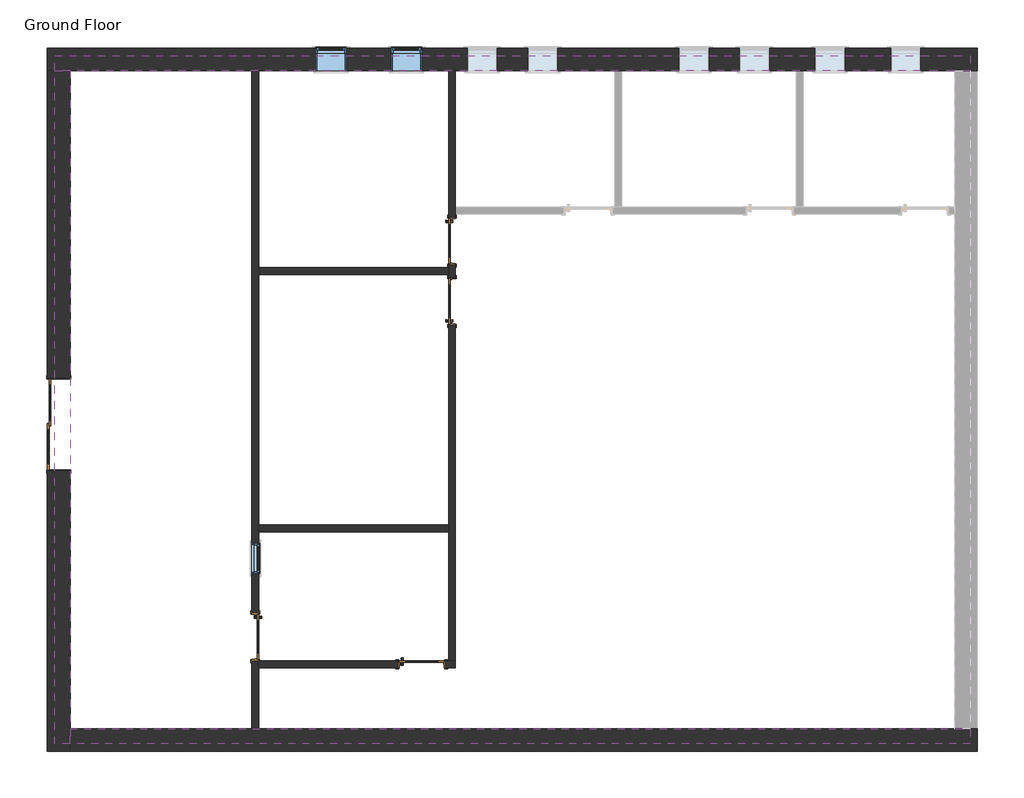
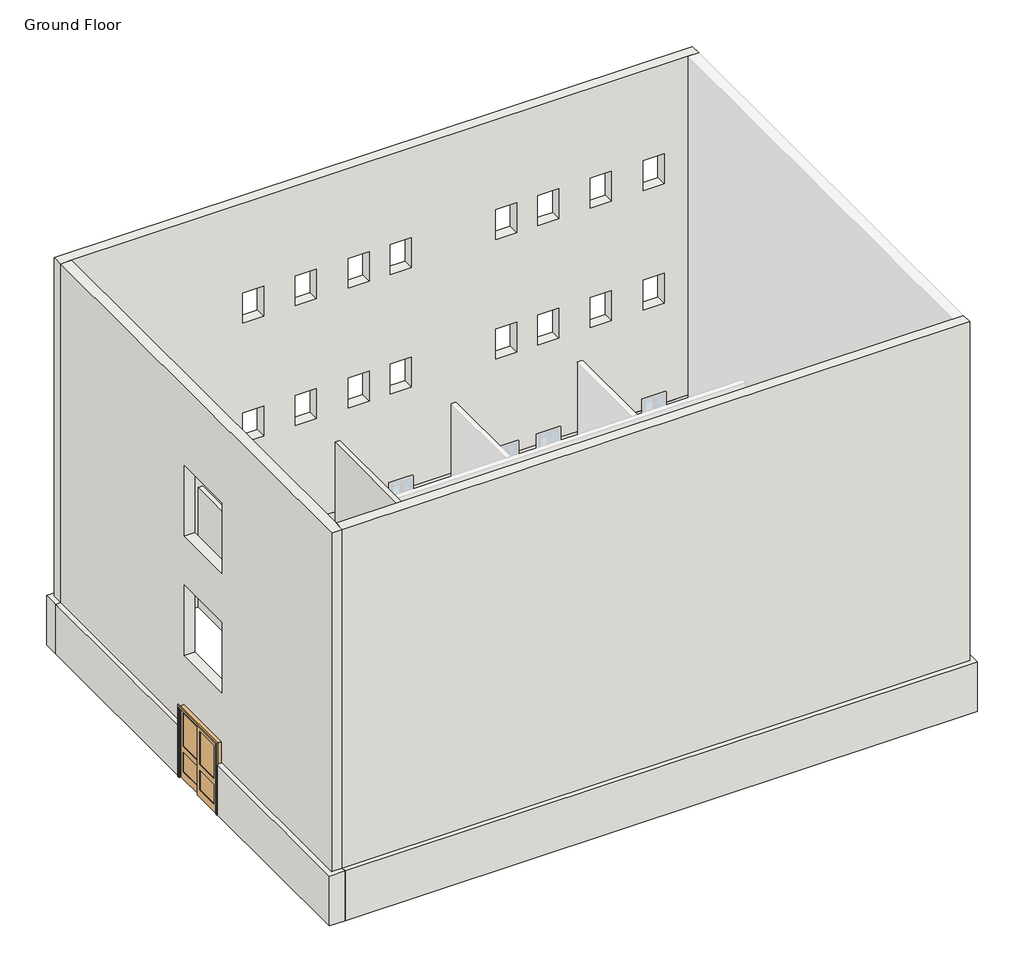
# One storey, part 1 of 2: 11 walls, 5 doors, 3 windows.
"""IFC4 building model written with IfcOpenShell, lengths in millimetres."""

from ifc_helpers import new_model, si_unit, origin, origin_with_axes, place, context, project, spatial, polyline, outline, extrude, faceted_brep, transform, mapped, element, save
from components import door_5c496fa4, door_918c180d, door_79dd3e86, window_d7bc73cd, window_2d4a29d0

model = new_model("IFC4")

# Units and contexts
model_context = context("Model", 3, world=origin())
ifc_project = project(units=[si_unit("LENGTHUNIT", "METRE", prefix="MILLI")], contexts=[model_context])

# Site, building, storey
site = spatial("IfcSite", under=ifc_project)
building = spatial("IfcBuilding", under=site)
storey = spatial("IfcBuildingStorey", under=building, Name="Ground Floor", Elevation=0.0)

# Doors
placement = place(None, origin())
door_shape = door_5c496fa4(model_context)
element("IfcDoor", 1, ObjectType="Door-Interior-Double-Sliding-2_Panel-Wood : 72\" x 84\"", at=placement, inside=storey, context=model_context, shape_type="MappedRepresentation", body=[
    mapped(door_shape, transform((-18194.5597136, 4559.7577587, 0.0), x_axis=(0.0, 1.0, 0.0), y_axis=(-1.0, 0.0, 0.0), z_axis=(0.0, 0.0, 1.0))),
])
door_2_shape = door_918c180d(model_context)
element("IfcDoor", 2, ObjectType="Door-Interior-Single-Full Glass-Wood : 36\" x 84\"", at=placement, inside=storey, context=model_context, shape_type="MappedRepresentation", body=[
    mapped(door_2_shape, transform((-14225.8097136, 277.7205992, 0.0), x_axis=(0.0, -1.0, 0.0), y_axis=(1.0, 0.0, 0.0), z_axis=(0.0, 0.0, 1.0))),
])
element("IfcDoor", 3, ObjectType="Door-Interior-Single-Full Glass-Wood : 36\" x 84\"", at=placement, inside=storey, context=model_context, shape_type="MappedRepresentation", body=[
    mapped(door_2_shape, transform((-10269.7597136, 7040.4705992, 0.0), x_axis=(0.0, 1.0, 0.0), y_axis=(-1.0, 0.0, 0.0), z_axis=(0.0, 0.0, 1.0))),
])
element("IfcDoor", 4, ObjectType="Door-Interior-Single-Full Glass-Wood : 36\" x 84\"", at=placement, inside=storey, context=model_context, shape_type="MappedRepresentation", body=[
    mapped(door_2_shape, transform((-10876.1847136, -271.5544008, 0.0), x_axis=(1.0, 0.0, 0.0), y_axis=(0.0, 1.0, 0.0), z_axis=(0.0, 0.0, 1.0))),
])
door_3_shape = door_79dd3e86(model_context)
element("IfcDoor", 5, ObjectType="Door-Interior-Single-Full Glass-Wood : 36\" x 84\"", at=placement, inside=storey, context=model_context, shape_type="MappedRepresentation", body=[
    mapped(door_3_shape, transform((-10269.7597136, 8259.6705992, 0.0), x_axis=(0.0, -1.0, 0.0), y_axis=(1.0, 0.0, 0.0), z_axis=(0.0, 0.0, 1.0))),
])

# Walls
element("IfcWall", 6, ObjectType="Exterior - CMU on Mtl. Stud", at=placement, inside=storey, context=model_context, shape_type="Brep", body=[
    faceted_brep([(-18418.3972136, 11690.2580992, 0.0), (-17964.3722136, 11690.2580992, 0.0), (-14298.8347136, 11690.2580992, 0.0), (-14159.1347136, 11690.2580992, 0.0), (-10336.4347136, 11690.2580992, 0.0), (-10196.7347136, 11690.2580992, 0.0), (-6983.6347136, 11690.2580992, 0.0), (-6843.9347136, 11690.2580992, 0.0), (-3326.0347136, 11690.2580992, 0.0), (-3186.3347136, 11690.2580992, 0.0), (-130.3972136, 11690.2580992, 0.0), (323.6277864, 11690.2580992, 0.0), (323.6277864, 11690.2580992, 1524.0), (180.7527864, 11690.2580992, 1524.0), (-130.3972136, 11690.2580992, 1524.0), (-817.7847136, 11690.2580992, 1524.0), (-817.7847136, 11690.2580992, 914.4), (-1427.3847136, 11690.2580992, 914.4), (-1427.3847136, 11690.2580992, 1524.0), (-2341.7847136, 11690.2580992, 1524.0), (-2341.7847136, 11690.2580992, 914.4), (-2951.3847136, 11690.2580992, 914.4), (-2951.3847136, 11690.2580992, 1524.0), (-3865.7847136, 11690.2580992, 1524.0), (-3865.7847136, 11690.2580992, 914.4), (-4475.3847136, 11690.2580992, 914.4), (-4475.3847136, 11690.2580992, 1524.0), (-5084.9847136, 11690.2580992, 1524.0), (-5084.9847136, 11690.2580992, 914.4), (-5694.5847136, 11690.2580992, 914.4), (-5694.5847136, 11690.2580992, 1524.0), (-8132.9847136, 11690.2580992, 1524.0), (-8132.9847136, 11690.2580992, 914.4), (-8742.5847136, 11690.2580992, 914.4), (-8742.5847136, 11690.2580992, 1524.0), (-9352.1847136, 11690.2580992, 1524.0), (-9352.1847136, 11690.2580992, 914.4), (-9961.7847136, 11690.2580992, 914.4), (-9961.7847136, 11690.2580992, 1524.0), (-10876.1847136, 11690.2580992, 1524.0), (-10876.1847136, 11690.2580992, 914.4), (-11485.7847136, 11690.2580992, 914.4), (-11485.7847136, 11690.2580992, 1524.0), (-12400.1847136, 11690.2580992, 1524.0), (-12400.1847136, 11690.2580992, 914.4), (-13009.7847136, 11690.2580992, 914.4), (-13009.7847136, 11690.2580992, 1524.0), (-17964.3722136, 11690.2580992, 1524.0), (-18275.5222136, 11690.2580992, 1524.0), (-18418.3972136, 11690.2580992, 1524.0), (323.6277864, 12144.2830992, 0.0), (-18418.3972136, 12144.2830992, 0.0), (-18418.3972136, 12144.2830992, 1524.0), (-13009.7847136, 12144.2830992, 1524.0), (-13009.7847136, 12144.2830992, 914.4), (-12400.1847136, 12144.2830992, 914.4), (-12400.1847136, 12144.2830992, 1524.0), (-11485.7847136, 12144.2830992, 1524.0), (-11485.7847136, 12144.2830992, 914.4), (-10876.1847136, 12144.2830992, 914.4), (-10876.1847136, 12144.2830992, 1524.0), (-9961.7847136, 12144.2830992, 1524.0), (-9961.7847136, 12144.2830992, 914.4), (-9352.1847136, 12144.2830992, 914.4), (-9352.1847136, 12144.2830992, 1524.0), (-8742.5847136, 12144.2830992, 1524.0), (-8742.5847136, 12144.2830992, 914.4), (-8132.9847136, 12144.2830992, 914.4), (-8132.9847136, 12144.2830992, 1524.0), (-5694.5847136, 12144.2830992, 1524.0), (-5694.5847136, 12144.2830992, 914.4), (-5084.9847136, 12144.2830992, 914.4), (-5084.9847136, 12144.2830992, 1524.0), (-4475.3847136, 12144.2830992, 1524.0), (-4475.3847136, 12144.2830992, 914.4), (-3865.7847136, 12144.2830992, 914.4), (-3865.7847136, 12144.2830992, 1524.0), (-2951.3847136, 12144.2830992, 1524.0), (-2951.3847136, 12144.2830992, 914.4), (-2341.7847136, 12144.2830992, 914.4), (-2341.7847136, 12144.2830992, 1524.0), (-1427.3847136, 12144.2830992, 1524.0), (-1427.3847136, 12144.2830992, 914.4), (-817.7847136, 12144.2830992, 914.4), (-817.7847136, 12144.2830992, 1524.0), (323.6277864, 12144.2830992, 1524.0), (-13009.7847136, 12001.4080992, 1524.0), (-817.7847136, 12001.4080992, 1524.0), (-1427.3847136, 12001.4080992, 1524.0), (-2341.7847136, 12001.4080992, 1524.0), (-2951.3847136, 12001.4080992, 1524.0), (-3865.7847136, 12001.4080992, 1524.0), (-4475.3847136, 12001.4080992, 1524.0), (-5084.9847136, 12001.4080992, 1524.0), (-5694.5847136, 12001.4080992, 1524.0), (-8132.9847136, 12001.4080992, 1524.0), (-8742.5847136, 12001.4080992, 1524.0), (-9352.1847136, 12001.4080992, 1524.0), (-9961.7847136, 12001.4080992, 1524.0), (-10876.1847136, 12001.4080992, 1524.0), (-11485.7847136, 12001.4080992, 1524.0), (-12400.1847136, 12001.4080992, 1524.0)], [[[0, 1, 2, 3, 4, 5, 6, 7, 8, 9, 10, 11, 12, 13, 14, 15, 16, 17, 18, 19, 20, 21, 22, 23, 24, 25, 26, 27, 28, 29, 30, 31, 32, 33, 34, 35, 36, 37, 38, 39, 40, 41, 42, 43, 44, 45, 46, 47, 48, 49]], [[50, 51, 52, 53, 54, 55, 56, 57, 58, 59, 60, 61, 62, 63, 64, 65, 66, 67, 68, 69, 70, 71, 72, 73, 74, 75, 76, 77, 78, 79, 80, 81, 82, 83, 84, 85]], [[11, 10, 9, 8, 7, 6, 5, 4, 3, 2, 1, 0, 51, 50]], [[52, 49, 48, 47, 46, 86, 53]], [[12, 85, 84, 87, 15, 14, 13]], [[18, 88, 81, 80, 89, 19]], [[22, 90, 77, 76, 91, 23]], [[26, 92, 73, 72, 93, 27]], [[30, 94, 69, 68, 95, 31]], [[34, 96, 65, 64, 97, 35]], [[38, 98, 61, 60, 99, 39]], [[42, 100, 57, 56, 101, 43]], [[0, 49, 52, 51]], [[12, 11, 50, 85]], [[83, 16, 15, 87, 84]], [[16, 83, 82, 17]], [[17, 82, 81, 88, 18]], [[79, 20, 19, 89, 80]], [[20, 79, 78, 21]], [[21, 78, 77, 90, 22]], [[75, 24, 23, 91, 76]], [[24, 75, 74, 25]], [[25, 74, 73, 92, 26]], [[71, 28, 27, 93, 72]], [[28, 71, 70, 29]], [[29, 70, 69, 94, 30]], [[33, 66, 65, 96, 34]], [[66, 33, 32, 67]], [[67, 32, 31, 95, 68]], [[37, 62, 61, 98, 38]], [[62, 37, 36, 63]], [[63, 36, 35, 97, 64]], [[41, 58, 57, 100, 42]], [[58, 41, 40, 59]], [[59, 40, 39, 99, 60]], [[45, 54, 53, 86, 46]], [[54, 45, 44, 55]], [[55, 44, 43, 101, 56]]]),
])
element("IfcWall", 7, ObjectType="Exterior - CMU on Mtl. Stud", at=placement, inside=storey, context=model_context, shape_type="Brep", body=[
    faceted_brep([(-17964.3722136, 11690.2580992, 0.0), (-17964.3722136, 11690.2580992, 1524.0), (-17964.3722136, 5499.5577587, 1524.0), (-17964.3722136, 5499.5577587, 0.0), (-18418.3972136, 11690.2580992, 1524.0), (-18418.3972136, 11690.2580992, 0.0), (-18418.3972136, 5499.5577587, 0.0), (-18418.3972136, 5499.5577587, 1524.0), (-18275.5222136, 11690.2580992, 1524.0), (-18275.5222136, 5499.5577587, 1524.0)], [[[0, 1, 2, 3]], [[4, 5, 6, 7]], [[5, 0, 3, 6]], [[1, 8, 4, 7, 9, 2]], [[1, 0, 5, 4, 8]], [[3, 2, 9, 7, 6]]]),
    faceted_brep([(-17964.3722136, -2025.7419008, 1524.0), (-17964.3722136, -2025.7419008, 0.0), (-17964.3722136, -1571.7169008, 0.0), (-17964.3722136, 3619.9577587, 0.0), (-17964.3722136, 3619.9577587, 1524.0), (-17964.3722136, -1571.7169008, 1524.0), (-17964.3722136, -1882.8669008, 1524.0), (-18418.3972136, -2025.7419008, 0.0), (-18418.3972136, -2025.7419008, 1524.0), (-18418.3972136, 3619.9577587, 1524.0), (-18418.3972136, 3619.9577587, 0.0), (-18275.5222136, 3619.9577587, 1524.0)], [[[0, 1, 2, 3, 4, 5, 6]], [[7, 8, 9, 10]], [[1, 7, 10, 3, 2]], [[8, 0, 6, 5, 4, 11, 9]], [[1, 0, 8, 7]], [[4, 3, 10, 9, 11]]]),
])
element("IfcWall", 8, ObjectType="Exterior - CMU on Mtl. Stud", at=placement, inside=storey, context=model_context, shape_type="Brep", body=[
    faceted_brep([(323.6277864, -1571.7169008, 0.0), (-130.3972136, -1571.7169008, 0.0), (-14159.1347136, -1571.7169008, 0.0), (-14298.8347136, -1571.7169008, 0.0), (-17964.3722136, -1571.7169008, 0.0), (-17964.3722136, -1571.7169008, 1524.0), (-130.3972136, -1571.7169008, 1524.0), (180.7527864, -1571.7169008, 1524.0), (323.6277864, -1571.7169008, 1524.0), (323.6277864, -2025.7419008, 0.0), (323.6277864, -2025.7419008, 1524.0), (-17964.3722136, -2025.7419008, 1524.0), (-17964.3722136, -2025.7419008, 0.0), (-17964.3722136, -1882.8669008, 1524.0)], [[[0, 1, 2, 3, 4, 5, 6, 7, 8]], [[9, 10, 11, 12]], [[4, 3, 2, 1, 0, 9, 12]], [[8, 7, 6, 5, 13, 11, 10]], [[0, 8, 10, 9]], [[5, 4, 12, 11, 13]]]),
])
element("IfcWall", 9, ObjectType="Exterior - EIFS on Mtl. Stud", at=placement, inside=storey, context=model_context, shape_type="Brep", body=[
    faceted_brep([(180.7527864, 11690.2580992, 11887.2), (-130.3972136, 11690.2580992, 11887.2), (-17964.3722136, 11690.2580992, 11887.2), (-18275.5222136, 11690.2580992, 11887.2), (-18275.5222136, 11690.2580992, 1524.0), (-17964.3722136, 11690.2580992, 1524.0), (-13009.7847136, 11690.2580992, 1524.0), (-13009.7847136, 11690.2580992, 1828.8), (-12400.1847136, 11690.2580992, 1828.8), (-12400.1847136, 11690.2580992, 1524.0), (-11485.7847136, 11690.2580992, 1524.0), (-11485.7847136, 11690.2580992, 1828.8), (-10876.1847136, 11690.2580992, 1828.8), (-10876.1847136, 11690.2580992, 1524.0), (-9961.7847136, 11690.2580992, 1524.0), (-9961.7847136, 11690.2580992, 1828.8), (-9352.1847136, 11690.2580992, 1828.8), (-9352.1847136, 11690.2580992, 1524.0), (-8742.5847136, 11690.2580992, 1524.0), (-8742.5847136, 11690.2580992, 1828.8), (-8132.9847136, 11690.2580992, 1828.8), (-8132.9847136, 11690.2580992, 1524.0), (-5694.5847136, 11690.2580992, 1524.0), (-5694.5847136, 11690.2580992, 1828.8), (-5084.9847136, 11690.2580992, 1828.8), (-5084.9847136, 11690.2580992, 1524.0), (-4475.3847136, 11690.2580992, 1524.0), (-4475.3847136, 11690.2580992, 1828.8), (-3865.7847136, 11690.2580992, 1828.8), (-3865.7847136, 11690.2580992, 1524.0), (-2951.3847136, 11690.2580992, 1524.0), (-2951.3847136, 11690.2580992, 1828.8), (-2341.7847136, 11690.2580992, 1828.8), (-2341.7847136, 11690.2580992, 1524.0), (-1427.3847136, 11690.2580992, 1524.0), (-1427.3847136, 11690.2580992, 1828.8), (-817.7847136, 11690.2580992, 1828.8), (-817.7847136, 11690.2580992, 1524.0), (-130.3972136, 11690.2580992, 1524.0), (180.7527864, 11690.2580992, 1524.0), (-8742.5847136, 11690.2580992, 4572.0), (-8742.5847136, 11690.2580992, 5486.4), (-8132.9847136, 11690.2580992, 5486.4), (-8132.9847136, 11690.2580992, 4572.0), (-9961.7847136, 11690.2580992, 4572.0), (-9961.7847136, 11690.2580992, 5486.4), (-9352.1847136, 11690.2580992, 5486.4), (-9352.1847136, 11690.2580992, 4572.0), (-11485.7847136, 11690.2580992, 4572.0), (-11485.7847136, 11690.2580992, 5486.4), (-10876.1847136, 11690.2580992, 5486.4), (-10876.1847136, 11690.2580992, 4572.0), (-13009.7847136, 11690.2580992, 4572.0), (-13009.7847136, 11690.2580992, 5486.4), (-12400.1847136, 11690.2580992, 5486.4), (-12400.1847136, 11690.2580992, 4572.0), (-5084.9847136, 11690.2580992, 5486.4), (-5084.9847136, 11690.2580992, 4572.0), (-5694.5847136, 11690.2580992, 4572.0), (-5694.5847136, 11690.2580992, 5486.4), (-3865.7847136, 11690.2580992, 5486.4), (-3865.7847136, 11690.2580992, 4572.0), (-4475.3847136, 11690.2580992, 4572.0), (-4475.3847136, 11690.2580992, 5486.4), (-2341.7847136, 11690.2580992, 5486.4), (-2341.7847136, 11690.2580992, 4572.0), (-2951.3847136, 11690.2580992, 4572.0), (-2951.3847136, 11690.2580992, 5486.4), (-817.7847136, 11690.2580992, 5486.4), (-817.7847136, 11690.2580992, 4572.0), (-1427.3847136, 11690.2580992, 4572.0), (-1427.3847136, 11690.2580992, 5486.4), (-8742.5847136, 11690.2580992, 8229.6), (-8742.5847136, 11690.2580992, 9144.0), (-8132.9847136, 11690.2580992, 9144.0), (-8132.9847136, 11690.2580992, 8229.6), (-9961.7847136, 11690.2580992, 8229.6), (-9961.7847136, 11690.2580992, 9144.0), (-9352.1847136, 11690.2580992, 9144.0), (-9352.1847136, 11690.2580992, 8229.6), (-11485.7847136, 11690.2580992, 8229.6), (-11485.7847136, 11690.2580992, 9144.0), (-10876.1847136, 11690.2580992, 9144.0), (-10876.1847136, 11690.2580992, 8229.6), (-13009.7847136, 11690.2580992, 8229.6), (-13009.7847136, 11690.2580992, 9144.0), (-12400.1847136, 11690.2580992, 9144.0), (-12400.1847136, 11690.2580992, 8229.6), (-5084.9847136, 11690.2580992, 9144.0), (-5084.9847136, 11690.2580992, 8229.6), (-5694.5847136, 11690.2580992, 8229.6), (-5694.5847136, 11690.2580992, 9144.0), (-3865.7847136, 11690.2580992, 9144.0), (-3865.7847136, 11690.2580992, 8229.6), (-4475.3847136, 11690.2580992, 8229.6), (-4475.3847136, 11690.2580992, 9144.0), (-2341.7847136, 11690.2580992, 9144.0), (-2341.7847136, 11690.2580992, 8229.6), (-2951.3847136, 11690.2580992, 8229.6), (-2951.3847136, 11690.2580992, 9144.0), (-817.7847136, 11690.2580992, 9144.0), (-817.7847136, 11690.2580992, 8229.6), (-1427.3847136, 11690.2580992, 8229.6), (-1427.3847136, 11690.2580992, 9144.0), (-18275.5222136, 12001.4080992, 11887.2), (180.7527864, 12001.4080992, 11887.2), (180.7527864, 12001.4080992, 1524.0), (-817.7847136, 12001.4080992, 1524.0), (-817.7847136, 12001.4080992, 1828.8), (-1427.3847136, 12001.4080992, 1828.8), (-1427.3847136, 12001.4080992, 1524.0), (-2341.7847136, 12001.4080992, 1524.0), (-2341.7847136, 12001.4080992, 1828.8), (-2951.3847136, 12001.4080992, 1828.8), (-2951.3847136, 12001.4080992, 1524.0), (-3865.7847136, 12001.4080992, 1524.0), (-3865.7847136, 12001.4080992, 1828.8), (-4475.3847136, 12001.4080992, 1828.8), (-4475.3847136, 12001.4080992, 1524.0), (-5084.9847136, 12001.4080992, 1524.0), (-5084.9847136, 12001.4080992, 1828.8), (-5694.5847136, 12001.4080992, 1828.8), (-5694.5847136, 12001.4080992, 1524.0), (-8132.9847136, 12001.4080992, 1524.0), (-8132.9847136, 12001.4080992, 1828.8), (-8742.5847136, 12001.4080992, 1828.8), (-8742.5847136, 12001.4080992, 1524.0), (-9352.1847136, 12001.4080992, 1524.0), (-9352.1847136, 12001.4080992, 1828.8), (-9961.7847136, 12001.4080992, 1828.8), (-9961.7847136, 12001.4080992, 1524.0), (-10876.1847136, 12001.4080992, 1524.0), (-10876.1847136, 12001.4080992, 1828.8), (-11485.7847136, 12001.4080992, 1828.8), (-11485.7847136, 12001.4080992, 1524.0), (-12400.1847136, 12001.4080992, 1524.0), (-12400.1847136, 12001.4080992, 1828.8), (-13009.7847136, 12001.4080992, 1828.8), (-13009.7847136, 12001.4080992, 1524.0), (-18275.5222136, 12001.4080992, 1524.0), (-8742.5847136, 12001.4080992, 5486.4), (-8742.5847136, 12001.4080992, 4572.0), (-8132.9847136, 12001.4080992, 4572.0), (-8132.9847136, 12001.4080992, 5486.4), (-9961.7847136, 12001.4080992, 5486.4), (-9961.7847136, 12001.4080992, 4572.0), (-9352.1847136, 12001.4080992, 4572.0), (-9352.1847136, 12001.4080992, 5486.4), (-11485.7847136, 12001.4080992, 5486.4), (-11485.7847136, 12001.4080992, 4572.0), (-10876.1847136, 12001.4080992, 4572.0), (-10876.1847136, 12001.4080992, 5486.4), (-13009.7847136, 12001.4080992, 5486.4), (-13009.7847136, 12001.4080992, 4572.0), (-12400.1847136, 12001.4080992, 4572.0), (-12400.1847136, 12001.4080992, 5486.4), (-5084.9847136, 12001.4080992, 4572.0), (-5084.9847136, 12001.4080992, 5486.4), (-5694.5847136, 12001.4080992, 5486.4), (-5694.5847136, 12001.4080992, 4572.0), (-3865.7847136, 12001.4080992, 4572.0), (-3865.7847136, 12001.4080992, 5486.4), (-4475.3847136, 12001.4080992, 5486.4), (-4475.3847136, 12001.4080992, 4572.0), (-2341.7847136, 12001.4080992, 4572.0), (-2341.7847136, 12001.4080992, 5486.4), (-2951.3847136, 12001.4080992, 5486.4), (-2951.3847136, 12001.4080992, 4572.0), (-817.7847136, 12001.4080992, 4572.0), (-817.7847136, 12001.4080992, 5486.4), (-1427.3847136, 12001.4080992, 5486.4), (-1427.3847136, 12001.4080992, 4572.0), (-8742.5847136, 12001.4080992, 9144.0), (-8742.5847136, 12001.4080992, 8229.6), (-8132.9847136, 12001.4080992, 8229.6), (-8132.9847136, 12001.4080992, 9144.0), (-9961.7847136, 12001.4080992, 9144.0), (-9961.7847136, 12001.4080992, 8229.6), (-9352.1847136, 12001.4080992, 8229.6), (-9352.1847136, 12001.4080992, 9144.0), (-11485.7847136, 12001.4080992, 9144.0), (-11485.7847136, 12001.4080992, 8229.6), (-10876.1847136, 12001.4080992, 8229.6), (-10876.1847136, 12001.4080992, 9144.0), (-13009.7847136, 12001.4080992, 9144.0), (-13009.7847136, 12001.4080992, 8229.6), (-12400.1847136, 12001.4080992, 8229.6), (-12400.1847136, 12001.4080992, 9144.0), (-5084.9847136, 12001.4080992, 8229.6), (-5084.9847136, 12001.4080992, 9144.0), (-5694.5847136, 12001.4080992, 9144.0), (-5694.5847136, 12001.4080992, 8229.6), (-3865.7847136, 12001.4080992, 8229.6), (-3865.7847136, 12001.4080992, 9144.0), (-4475.3847136, 12001.4080992, 9144.0), (-4475.3847136, 12001.4080992, 8229.6), (-2341.7847136, 12001.4080992, 8229.6), (-2341.7847136, 12001.4080992, 9144.0), (-2951.3847136, 12001.4080992, 9144.0), (-2951.3847136, 12001.4080992, 8229.6), (-817.7847136, 12001.4080992, 8229.6), (-817.7847136, 12001.4080992, 9144.0), (-1427.3847136, 12001.4080992, 9144.0), (-1427.3847136, 12001.4080992, 8229.6)], [[[0, 1, 2, 3, 4, 5, 6, 7, 8, 9, 10, 11, 12, 13, 14, 15, 16, 17, 18, 19, 20, 21, 22, 23, 24, 25, 26, 27, 28, 29, 30, 31, 32, 33, 34, 35, 36, 37, 38, 39], [40, 41, 42, 43], [44, 45, 46, 47], [48, 49, 50, 51], [52, 53, 54, 55], [56, 57, 58, 59], [60, 61, 62, 63], [64, 65, 66, 67], [68, 69, 70, 71], [72, 73, 74, 75], [76, 77, 78, 79], [80, 81, 82, 83], [84, 85, 86, 87], [88, 89, 90, 91], [92, 93, 94, 95], [96, 97, 98, 99], [100, 101, 102, 103]], [[104, 105, 106, 107, 108, 109, 110, 111, 112, 113, 114, 115, 116, 117, 118, 119, 120, 121, 122, 123, 124, 125, 126, 127, 128, 129, 130, 131, 132, 133, 134, 135, 136, 137, 138, 139], [140, 141, 142, 143], [144, 145, 146, 147], [148, 149, 150, 151], [152, 153, 154, 155], [156, 157, 158, 159], [160, 161, 162, 163], [164, 165, 166, 167], [168, 169, 170, 171], [172, 173, 174, 175], [176, 177, 178, 179], [180, 181, 182, 183], [184, 185, 186, 187], [188, 189, 190, 191], [192, 193, 194, 195], [196, 197, 198, 199], [200, 201, 202, 203]], [[4, 139, 138, 6, 5]], [[106, 39, 38, 37, 107]], [[110, 34, 33, 111]], [[114, 30, 29, 115]], [[118, 26, 25, 119]], [[122, 22, 21, 123]], [[126, 18, 17, 127]], [[130, 14, 13, 131]], [[134, 10, 9, 135]], [[3, 2, 1, 0, 105, 104]], [[4, 3, 104, 139]], [[0, 39, 106, 105]], [[36, 108, 107, 37]], [[109, 35, 34, 110]], [[108, 36, 35, 109]], [[32, 112, 111, 33]], [[113, 31, 30, 114]], [[112, 32, 31, 113]], [[28, 116, 115, 29]], [[117, 27, 26, 118]], [[116, 28, 27, 117]], [[24, 120, 119, 25]], [[121, 23, 22, 122]], [[120, 24, 23, 121]], [[125, 19, 18, 126]], [[20, 124, 123, 21]], [[19, 125, 124, 20]], [[129, 15, 14, 130]], [[16, 128, 127, 17]], [[15, 129, 128, 16]], [[133, 11, 10, 134]], [[12, 132, 131, 13]], [[11, 133, 132, 12]], [[137, 7, 6, 138]], [[8, 136, 135, 9]], [[7, 137, 136, 8]], [[140, 41, 40, 141]], [[141, 40, 43, 142]], [[142, 43, 42, 143]], [[41, 140, 143, 42]], [[144, 45, 44, 145]], [[145, 44, 47, 146]], [[146, 47, 46, 147]], [[45, 144, 147, 46]], [[148, 49, 48, 149]], [[149, 48, 51, 150]], [[150, 51, 50, 151]], [[49, 148, 151, 50]], [[152, 53, 52, 153]], [[153, 52, 55, 154]], [[154, 55, 54, 155]], [[53, 152, 155, 54]], [[56, 157, 156, 57]], [[57, 156, 159, 58]], [[58, 159, 158, 59]], [[157, 56, 59, 158]], [[60, 161, 160, 61]], [[61, 160, 163, 62]], [[62, 163, 162, 63]], [[161, 60, 63, 162]], [[64, 165, 164, 65]], [[65, 164, 167, 66]], [[66, 167, 166, 67]], [[165, 64, 67, 166]], [[68, 169, 168, 69]], [[69, 168, 171, 70]], [[70, 171, 170, 71]], [[169, 68, 71, 170]], [[172, 73, 72, 173]], [[173, 72, 75, 174]], [[174, 75, 74, 175]], [[73, 172, 175, 74]], [[176, 77, 76, 177]], [[177, 76, 79, 178]], [[178, 79, 78, 179]], [[77, 176, 179, 78]], [[180, 81, 80, 181]], [[181, 80, 83, 182]], [[182, 83, 82, 183]], [[81, 180, 183, 82]], [[184, 85, 84, 185]], [[185, 84, 87, 186]], [[186, 87, 86, 187]], [[85, 184, 187, 86]], [[88, 189, 188, 89]], [[89, 188, 191, 90]], [[90, 191, 190, 91]], [[189, 88, 91, 190]], [[92, 193, 192, 93]], [[93, 192, 195, 94]], [[94, 195, 194, 95]], [[193, 92, 95, 194]], [[96, 197, 196, 97]], [[97, 196, 199, 98]], [[98, 199, 198, 99]], [[197, 96, 99, 198]], [[100, 201, 200, 101]], [[101, 200, 203, 102]], [[102, 203, 202, 103]], [[201, 100, 103, 202]]]),
])
element("IfcWall", 10, ObjectType="Exterior - EIFS on Mtl. Stud", at=placement, inside=storey, context=model_context, shape_type="Brep", body=[
    faceted_brep([(-17964.3722136, 11690.2580992, 11887.2), (-17964.3722136, -1571.7169008, 11887.2), (-17964.3722136, -1882.8669008, 11887.2), (-17964.3722136, -1882.8669008, 1524.0), (-17964.3722136, -1571.7169008, 1524.0), (-17964.3722136, 3619.9577587, 1524.0), (-17964.3722136, 3619.9577587, 2159.0), (-17964.3722136, 5499.5577587, 2159.0), (-17964.3722136, 5499.5577587, 1524.0), (-17964.3722136, 11690.2580992, 1524.0), (-17964.3722136, 5499.5577587, 5816.6), (-17964.3722136, 5499.5577587, 3657.6), (-17964.3722136, 3619.9577587, 3657.6), (-17964.3722136, 3619.9577587, 5816.6), (-17964.3722136, 5499.5577587, 9474.2), (-17964.3722136, 5499.5577587, 7315.2), (-17964.3722136, 3619.9577587, 7315.2), (-17964.3722136, 3619.9577587, 9474.2), (-18275.5222136, -1882.8669008, 11887.2), (-18275.5222136, 11690.2580992, 11887.2), (-18275.5222136, 11690.2580992, 1524.0), (-18275.5222136, 5499.5577587, 1524.0), (-18275.5222136, 5499.5577587, 2159.0), (-18275.5222136, 3619.9577587, 2159.0), (-18275.5222136, 3619.9577587, 1524.0), (-18275.5222136, -1882.8669008, 1524.0), (-18275.5222136, 5499.5577587, 3657.6), (-18275.5222136, 5499.5577587, 5816.6), (-18275.5222136, 3619.9577587, 5816.6), (-18275.5222136, 3619.9577587, 3657.6), (-18275.5222136, 5499.5577587, 7315.2), (-18275.5222136, 5499.5577587, 9474.2), (-18275.5222136, 3619.9577587, 9474.2), (-18275.5222136, 3619.9577587, 7315.2)], [[[0, 1, 2, 3, 4, 5, 6, 7, 8, 9], [10, 11, 12, 13], [14, 15, 16, 17]], [[18, 19, 20, 21, 22, 23, 24, 25], [26, 27, 28, 29], [30, 31, 32, 33]], [[3, 25, 24, 5, 4]], [[20, 9, 8, 21]], [[2, 1, 0, 19, 18]], [[3, 2, 18, 25]], [[0, 9, 20, 19]], [[7, 22, 21, 8]], [[22, 7, 6, 23]], [[23, 6, 5, 24]], [[26, 11, 10, 27]], [[27, 10, 13, 28]], [[28, 13, 12, 29]], [[11, 26, 29, 12]], [[30, 15, 14, 31]], [[31, 14, 17, 32]], [[32, 17, 16, 33]], [[15, 30, 33, 16]]]),
])
element("IfcWall", 11, ObjectType="Exterior - EIFS on Mtl. Stud", at=placement, inside=storey, context=model_context, shape_type="Brep", body=[
    faceted_brep([(180.7527864, -1571.7169008, 1524.0), (-130.3972136, -1571.7169008, 1524.0), (-17964.3722136, -1571.7169008, 1524.0), (-17964.3722136, -1571.7169008, 11887.2), (-130.3972136, -1571.7169008, 11887.2), (180.7527864, -1571.7169008, 11887.2), (180.7527864, -1882.8669008, 1524.0), (180.7527864, -1882.8669008, 11887.2), (-17964.3722136, -1882.8669008, 11887.2), (-17964.3722136, -1882.8669008, 1524.0)], [[[0, 1, 2, 3, 4, 5]], [[6, 7, 8, 9]], [[2, 1, 0, 6, 9]], [[5, 4, 3, 8, 7]], [[0, 5, 7, 6]], [[3, 2, 9, 8]]]),
])
element("IfcWall", 12, ObjectType="Interior - 5 1/2\" Partition (1-hr)", at=placement, inside=storey, context=model_context, shape_type="Brep", body=[
    faceted_brep([(-14298.8347136, -1571.7169008, 3657.6), (-14298.8347136, 11690.2580992, 3657.6), (-14298.8347136, 11690.2580992, 0.0), (-14298.8347136, 760.3205992, 0.0), (-14298.8347136, 760.3205992, 2159.0), (-14298.8347136, -204.8794008, 2159.0), (-14298.8347136, -204.8794008, 0.0), (-14298.8347136, -1571.7169008, 0.0), (-14298.8347136, 1554.0705992, 1828.8), (-14298.8347136, 1554.0705992, 914.4), (-14298.8347136, 2163.6705992, 914.4), (-14298.8347136, 2163.6705992, 1828.8), (-14159.1347136, 11690.2580992, 3657.6), (-14159.1347136, 7719.9205992, 3657.6), (-14159.1347136, 7580.2205992, 3657.6), (-14159.1347136, 2538.3205992, 3657.6), (-14159.1347136, 2398.6205992, 3657.6), (-14159.1347136, -204.8794008, 3657.6), (-14159.1347136, -344.5794008, 3657.6), (-14159.1347136, -1571.7169008, 3657.6), (-14159.1347136, -1571.7169008, 0.0), (-14159.1347136, -344.5794008, 0.0), (-14159.1347136, -204.8794008, 0.0), (-14159.1347136, -204.8794008, 2159.0), (-14159.1347136, 760.3205992, 2159.0), (-14159.1347136, 760.3205992, 0.0), (-14159.1347136, 2398.6205992, 0.0), (-14159.1347136, 2538.3205992, 0.0), (-14159.1347136, 7580.2205992, 0.0), (-14159.1347136, 7719.9205992, 0.0), (-14159.1347136, 11690.2580992, 0.0), (-14159.1347136, 1554.0705992, 1828.8), (-14159.1347136, 2163.6705992, 1828.8), (-14159.1347136, 2163.6705992, 914.4), (-14159.1347136, 1554.0705992, 914.4)], [[[0, 1, 2, 3, 4, 5, 6, 7], [8, 9, 10, 11]], [[12, 13, 14, 15, 16, 17, 18, 19, 20, 21, 22, 23, 24, 25, 26, 27, 28, 29, 30], [31, 32, 33, 34]], [[2, 30, 29, 28, 27, 26, 25, 3]], [[20, 7, 6, 22, 21]], [[1, 0, 19, 18, 17, 16, 15, 14, 13, 12]], [[30, 2, 1, 12]], [[7, 20, 19, 0]], [[5, 23, 22, 6]], [[23, 5, 4, 24]], [[24, 4, 3, 25]], [[9, 8, 31, 34]], [[10, 9, 34, 33]], [[11, 10, 33, 32]], [[8, 11, 32, 31]]]),
])
element("IfcWall", 13, ObjectType="Interior - 5 1/2\" Partition (1-hr)", at=placement, inside=storey, context=model_context, shape_type="Brep", body=[
    faceted_brep([(-10196.7347136, -344.5794008, 3657.6), (-14159.1347136, -344.5794008, 3657.6), (-14159.1347136, -344.5794008, 0.0), (-11358.7847136, -344.5794008, 0.0), (-11358.7847136, -344.5794008, 2159.0), (-10393.5847136, -344.5794008, 2159.0), (-10393.5847136, -344.5794008, 0.0), (-10196.7347136, -344.5794008, 0.0), (-14159.1347136, -204.8794008, 3657.6), (-10336.4347136, -204.8794008, 3657.6), (-10196.7347136, -204.8794008, 3657.6), (-10196.7347136, -204.8794008, 0.0), (-10336.4347136, -204.8794008, 0.0), (-10393.5847136, -204.8794008, 0.0), (-10393.5847136, -204.8794008, 2159.0), (-11358.7847136, -204.8794008, 2159.0), (-11358.7847136, -204.8794008, 0.0), (-14159.1347136, -204.8794008, 0.0)], [[[0, 1, 2, 3, 4, 5, 6, 7]], [[8, 9, 10, 11, 12, 13, 14, 15, 16, 17]], [[2, 17, 16, 3]], [[11, 7, 6, 13, 12]], [[1, 0, 10, 9, 8]], [[2, 1, 8, 17]], [[0, 7, 11, 10]], [[5, 14, 13, 6]], [[14, 5, 4, 15]], [[15, 4, 3, 16]]]),
])
element("IfcWall", 14, ObjectType="Interior - 5 1/2\" Partition (1-hr)", at=placement, inside=storey, context=model_context, shape_type="Brep", body=[
    faceted_brep([(-10196.7347136, 11690.2580992, 3657.6), (-10196.7347136, 8939.1205992, 3657.6), (-10196.7347136, 8799.4205992, 3657.6), (-10196.7347136, -204.8794008, 3657.6), (-10196.7347136, -204.8794008, 0.0), (-10196.7347136, 6557.8705992, 0.0), (-10196.7347136, 6557.8705992, 2159.0), (-10196.7347136, 7523.0705992, 2159.0), (-10196.7347136, 7523.0705992, 0.0), (-10196.7347136, 7777.0705992, 0.0), (-10196.7347136, 7777.0705992, 2159.0), (-10196.7347136, 8742.2705992, 2159.0), (-10196.7347136, 8742.2705992, 0.0), (-10196.7347136, 8799.4205992, 0.0), (-10196.7347136, 8939.1205992, 0.0), (-10196.7347136, 11690.2580992, 0.0), (-10336.4347136, -204.8794008, 3657.6), (-10336.4347136, 2398.6205992, 3657.6), (-10336.4347136, 2538.3205992, 3657.6), (-10336.4347136, 7580.2205992, 3657.6), (-10336.4347136, 7719.9205992, 3657.6), (-10336.4347136, 11690.2580992, 3657.6), (-10336.4347136, 11690.2580992, 0.0), (-10336.4347136, 8742.2705992, 0.0), (-10336.4347136, 8742.2705992, 2159.0), (-10336.4347136, 7777.0705992, 2159.0), (-10336.4347136, 7777.0705992, 0.0), (-10336.4347136, 7719.9205992, 0.0), (-10336.4347136, 7580.2205992, 0.0), (-10336.4347136, 7523.0705992, 0.0), (-10336.4347136, 7523.0705992, 2159.0), (-10336.4347136, 6557.8705992, 2159.0), (-10336.4347136, 6557.8705992, 0.0), (-10336.4347136, 2538.3205992, 0.0), (-10336.4347136, 2398.6205992, 0.0), (-10336.4347136, -204.8794008, 0.0)], [[[0, 1, 2, 3, 4, 5, 6, 7, 8, 9, 10, 11, 12, 13, 14, 15]], [[16, 17, 18, 19, 20, 21, 22, 23, 24, 25, 26, 27, 28, 29, 30, 31, 32, 33, 34, 35]], [[4, 35, 34, 33, 32, 5]], [[22, 15, 14, 13, 12, 23]], [[8, 29, 28, 27, 26, 9]], [[3, 2, 1, 0, 21, 20, 19, 18, 17, 16]], [[4, 3, 16, 35]], [[15, 22, 21, 0]], [[7, 30, 29, 8]], [[30, 7, 6, 31]], [[31, 6, 5, 32]], [[25, 10, 9, 26]], [[10, 25, 24, 11]], [[11, 24, 23, 12]]]),
])
element("IfcWall", 15, ObjectType="Interior - 5 1/2\" Partition (1-hr)", at=placement, inside=storey, context=model_context, shape_type="SweptSolid", body=[
    extrude(outline(polyline([(-10336.4347136, 7580.2205992), (-14159.1347136, 7580.2205992), (-14159.1347136, 7719.9205992), (-10336.4347136, 7719.9205992), (-10336.4347136, 7580.2205992)])), origin_with_axes(), (0.0, 0.0, 1.0), 3657.6),
])
element("IfcWall", 16, ObjectType="Interior - 5 1/2\" Partition (1-hr)", at=placement, inside=storey, context=model_context, shape_type="SweptSolid", body=[
    extrude(outline(polyline([(-10336.4347136, 2398.6205992), (-14159.1347136, 2398.6205992), (-14159.1347136, 2538.3205992), (-10336.4347136, 2538.3205992), (-10336.4347136, 2398.6205992)])), origin_with_axes(), (0.0, 0.0, 1.0), 3657.6),
])

# Windows
window_shape = window_d7bc73cd(model_context)
element("IfcWindow", 17, ObjectType="Window-Awning-Single : 24\" x 36\"", at=placement, inside=storey, context=model_context, shape_type="MappedRepresentation", body=[
    mapped(window_shape, transform((-14228.9847136, 1858.8705992, 0.0), x_axis=(0.0, -1.0, 0.0), y_axis=(1.0, 0.0, 0.0), z_axis=(0.0, 0.0, 1.0))),
])
window_2_shape = window_2d4a29d0(model_context)
element("IfcWindow", 18, ObjectType="Window-Awning-Single : 24\" x 36\"", at=placement, inside=storey, context=model_context, shape_type="MappedRepresentation", body=[
    mapped(window_2_shape, transform((-12704.9847136, 11917.2705992, 0.0), x_axis=(-1.0, 0.0, 0.0), y_axis=(0.0, -1.0, 0.0), z_axis=(0.0, 0.0, 1.0))),
])
element("IfcWindow", 19, ObjectType="Window-Awning-Single : 24\" x 36\"", at=placement, inside=storey, context=model_context, shape_type="MappedRepresentation", body=[
    mapped(window_2_shape, transform((-11180.9847136, 11917.2705992, 0.0), x_axis=(-1.0, 0.0, 0.0), y_axis=(0.0, -1.0, 0.0), z_axis=(0.0, 0.0, 1.0))),
])

save(model, "model.ifc")
